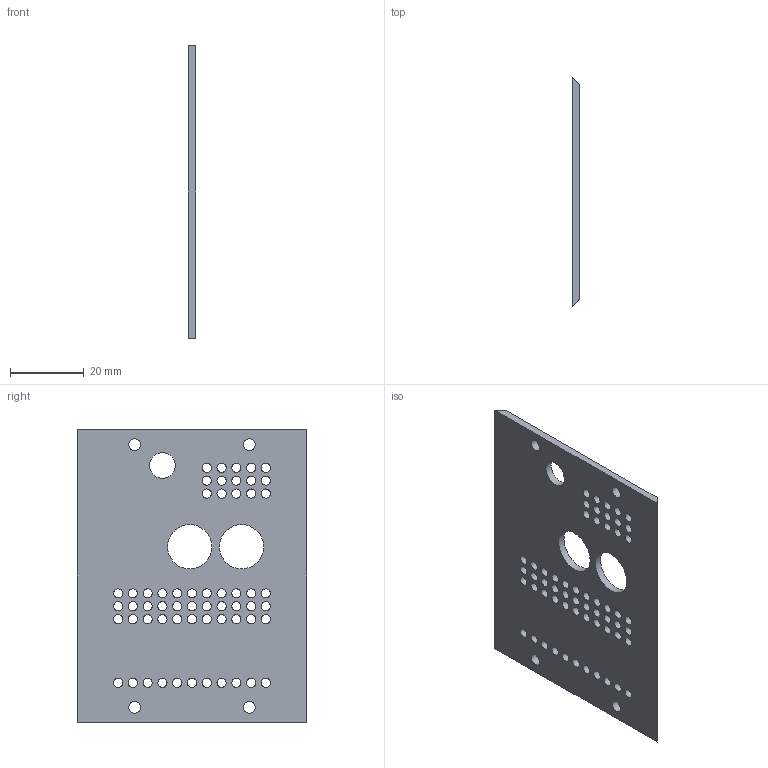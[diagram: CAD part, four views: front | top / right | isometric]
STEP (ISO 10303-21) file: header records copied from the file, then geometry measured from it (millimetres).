
FILE_DESCRIPTION(/* description */ ('STEP AP242','CAx-IF Rec.Pracs.---Representation and Presentation of Product Manufacturing Information (PMI)---4.0---2014-10-13','CAx-IF Rec.Pracs.---3D Tessellated Geometry---0.4---2014-09-14','2;1'),/* implementation_level */ '2;1');
FILE_NAME(/* name */ 'Case - Part 5',/* time_stamp */ '2024-08-18T13:23:26Z',/* author */ (''),/* organization */ (''),/* preprocessor_version */ 'ST-DEVELOPER v20',/* originating_system */ ' ',/* authorisation */ ' ');
FILE_SCHEMA (('AP242_MANAGED_MODEL_BASED_3D_ENGINEERING_MIM_LF { 1 0 10303 442 1 1 4 }'));
Length unit declared in the file: metre
Products named in the file (1): Part 5
Bounding box: 2 x 62 x 79 mm (x, y, z)
Volume: 8307.1 mm3; surface area: 10195.9 mm2
Topology: 1 solids, 1 shells, 72 faces, 276 edges, 206 vertices
Faces by surface type: cylinder 66, plane 6
Full cylindrical faces by diameter (mm): 2.5 x59, 3.2 x4, 7 x1, 12 x2
Entity records: 2422 total; most frequent: DIRECTION 422, CARTESIAN_POINT 357, ORIENTED_EDGE 288, EDGE_LOOP 270, FACE_BOUND 270, AXIS2_PLACEMENT_3D 205, EDGE_CURVE 144, VERTEX_POINT 140
